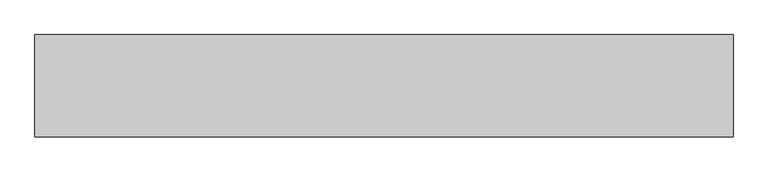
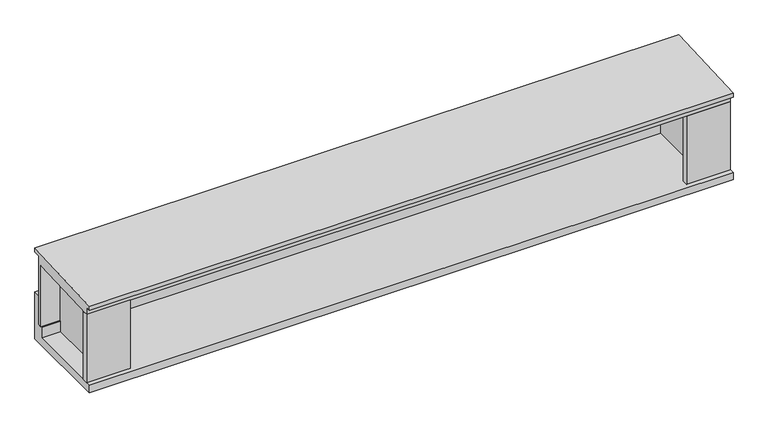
"""IFC4 building model written with IfcOpenShell, lengths in millimetres: geographic element geometry, 営_自転車置場 : 自転車置場."""

from ifc_helpers import new_model, si_unit, frame, origin, origin_with_axes, place, context, project, spatial, polyline, outline, extrude, source, transform, mapped, element, save


def geographic_element_8a4f6f01(model_context):
    return source(origin(), model_context, "Body", "SweptSolid", [
        extrude(outline(polyline([(1150.0, -2275.0), (0.0, -2275.0), (0.0, -2125.0), (500.0, -2125.0), (500.0, 75.0), (650.0, 75.0), (650.0, -2125.0), (1150.0, -2125.0), (1150.0, -2275.0)])), origin_with_axes(), (0.0, 0.0, 1.0), 1895.9180153),
        extrude(outline(polyline([(15750.0, -2275.0), (15750.0, -2125.0), (16250.0, -2125.0), (16250.0, 75.0), (16400.0, 75.0), (16400.0, -2125.0), (16900.0, -2125.0), (16900.0, -2275.0), (15750.0, -2275.0)])), origin_with_axes(), (0.0, 0.0, 1.0), 1895.9180153),
        extrude(outline(polyline([(75.0, 2214.8597975), (-100.0, 2206.0214137), (-100.0, 300.0), (-200.0, 300.0), (-200.0, 2000.7159951), (-2275.0, 1895.9180153), (-2275.0, 2096.1729289), (-2400.0, 2089.8597975), (-2400.0, 2200.0), (75.0, 2325.0), (75.0, 2214.8597975)])), frame((0.0, 0.0, 0.0), z_axis=(1.0, 0.0, 0.0), x_axis=(0.0, 1.0, 0.0)), (0.0, 0.0, 1.0), 16900.0),
        extrude(outline(polyline([(75.0, 1100.0), (75.0, -200.0), (-2400.0, -200.0), (-2400.0, 0.0), (-225.0, 0.0), (-225.0, 300.0), (-75.0, 300.0), (-75.0, 1100.0), (75.0, 1100.0)])), frame((0.0, 0.0, 0.0), z_axis=(1.0, 0.0, 0.0), x_axis=(0.0, 1.0, 0.0)), (0.0, 0.0, 1.0), 16900.0),
    ])


if __name__ == "__main__":
    model = new_model("IFC4")
    model_context = context("Model", 3, world=origin())
    ifc_project = project(units=[si_unit("LENGTHUNIT", "METRE", prefix="MILLI")], contexts=[model_context])
    site = spatial("IfcSite", under=ifc_project)
    building = spatial("IfcBuilding", under=site)
    placement = place(None, origin())
    geographic_element_shape = geographic_element_8a4f6f01(model_context)
    element("IfcGeographicElement", 1, ObjectType="営_自転車置場 : 自転車置場", at=placement, inside=building, context=model_context, shape_type="MappedRepresentation", body=[
        mapped(geographic_element_shape, transform((0.0, 0.0, 0.0), x_axis=(1.0, 0.0, 0.0), y_axis=(0.0, 1.0, 0.0), z_axis=(0.0, 0.0, 1.0))),
    ])
    save(model, "model.ifc")
